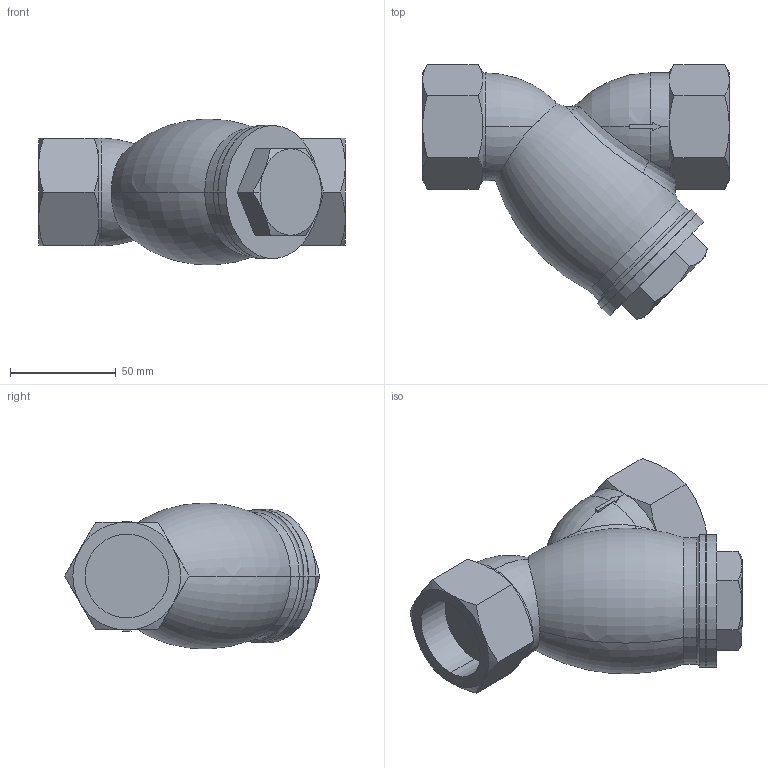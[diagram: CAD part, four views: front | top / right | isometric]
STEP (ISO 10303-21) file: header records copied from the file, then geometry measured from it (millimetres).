
FILE_DESCRIPTION (( 'STEP AP203' ), '1' );
FILE_NAME ('SY-6 32A.STEP', '2026-05-18T00:59:28', ( '' ), ( '' ), 'SwSTEP 2.0', 'SolidWorks 2026', '' );
FILE_SCHEMA (( 'CONFIG_CONTROL_DESIGN' ));
Length unit declared in the file: millimetre
Products named in the file (1): SY-6 32A
Bounding box: 145 x 120.55 x 68.97 mm (x, y, z)
Volume: 468577.2 mm3; surface area: 47624.6 mm2
Topology: 1 solids, 1 shells, 107 faces, 253 edges, 153 vertices
Faces by surface type: plane 44, cone 30, cylinder 17, torus 12, bspline 4
Entity records: 4302 total; most frequent: CARTESIAN_POINT 1913, ORIENTED_EDGE 506, DIRECTION 451, EDGE_CURVE 253, AXIS2_PLACEMENT_3D 189, VERTEX_POINT 153, EDGE_LOOP 112, ADVANCED_FACE 107
